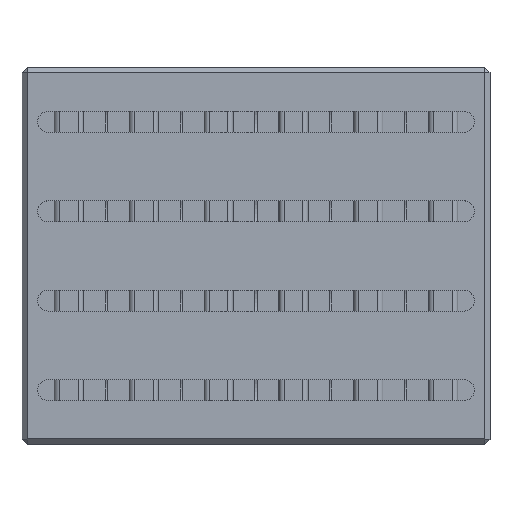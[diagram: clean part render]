
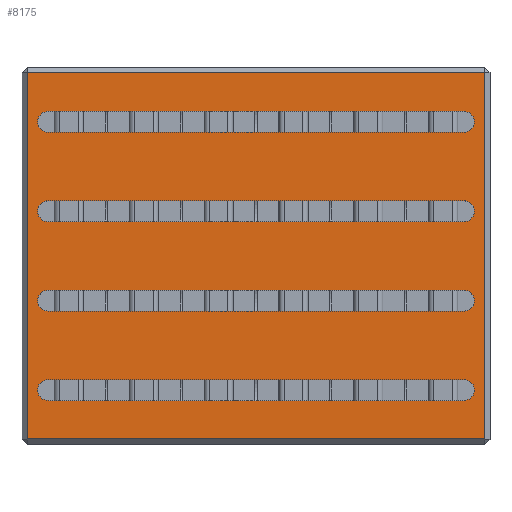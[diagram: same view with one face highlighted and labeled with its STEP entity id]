
A CAD part, top view. The second image highlights one B-rep face of the part: STEP entity #8175.
In plain terms, the highlighted planar face has unit normal (0, 0, 1).
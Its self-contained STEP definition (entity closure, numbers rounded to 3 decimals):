
#14=FACE_BOUND('',#1235,.T.);
#15=FACE_BOUND('',#1236,.T.);
#16=FACE_BOUND('',#1237,.T.);
#17=FACE_BOUND('',#1238,.T.);
#419=PLANE('',#8883);
#820=FACE_OUTER_BOUND('',#1234,.T.);
#1234=EDGE_LOOP('',(#7638,#7639,#7640,#7641));
#1235=EDGE_LOOP('',(#7642,#7643,#7644,#7645));
#1236=EDGE_LOOP('',(#7646,#7647,#7648,#7649));
#1237=EDGE_LOOP('',(#7650,#7651,#7652,#7653));
#1238=EDGE_LOOP('',(#7654,#7655,#7656,#7657));
#1550=CIRCLE('',#8884,5.);
#1551=CIRCLE('',#8885,5.);
#1552=CIRCLE('',#8886,5.);
#1553=CIRCLE('',#8887,5.);
#1554=CIRCLE('',#8888,5.);
#1555=CIRCLE('',#8889,5.);
#1556=CIRCLE('',#8890,5.);
#1557=CIRCLE('',#8891,5.);
#2396=LINE('',#13473,#3300);
#2407=LINE('',#13496,#3311);
#2409=LINE('',#13499,#3313);
#2417=LINE('',#13514,#3321);
#2430=LINE('',#13548,#3334);
#2431=LINE('',#13552,#3335);
#2432=LINE('',#13556,#3336);
#2433=LINE('',#13560,#3337);
#2434=LINE('',#13564,#3338);
#2435=LINE('',#13568,#3339);
#2436=LINE('',#13572,#3340);
#2437=LINE('',#13576,#3341);
#3300=VECTOR('',#11057,10.);
#3311=VECTOR('',#11076,10.);
#3313=VECTOR('',#11080,10.);
#3321=VECTOR('',#11094,10.);
#3334=VECTOR('',#11125,10.);
#3335=VECTOR('',#11128,10.);
#3336=VECTOR('',#11131,10.);
#3337=VECTOR('',#11134,10.);
#3338=VECTOR('',#11137,10.);
#3339=VECTOR('',#11140,10.);
#3340=VECTOR('',#11143,10.);
#3341=VECTOR('',#11146,10.);
#4106=VERTEX_POINT('',#13459);
#4109=VERTEX_POINT('',#13466);
#4114=VERTEX_POINT('',#13482);
#4119=VERTEX_POINT('',#13492);
#4134=VERTEX_POINT('',#13546);
#4135=VERTEX_POINT('',#13547);
#4136=VERTEX_POINT('',#13549);
#4137=VERTEX_POINT('',#13551);
#4138=VERTEX_POINT('',#13554);
#4139=VERTEX_POINT('',#13555);
#4140=VERTEX_POINT('',#13557);
#4141=VERTEX_POINT('',#13559);
#4142=VERTEX_POINT('',#13562);
#4143=VERTEX_POINT('',#13563);
#4144=VERTEX_POINT('',#13565);
#4145=VERTEX_POINT('',#13567);
#4146=VERTEX_POINT('',#13570);
#4147=VERTEX_POINT('',#13571);
#4148=VERTEX_POINT('',#13573);
#4149=VERTEX_POINT('',#13575);
#5276=EDGE_CURVE('',#4109,#4106,#2396,.T.);
#5287=EDGE_CURVE('',#4114,#4119,#2407,.T.);
#5289=EDGE_CURVE('',#4119,#4109,#2409,.T.);
#5297=EDGE_CURVE('',#4106,#4114,#2417,.T.);
#5314=EDGE_CURVE('',#4134,#4135,#2430,.T.);
#5315=EDGE_CURVE('',#4135,#4136,#1550,.T.);
#5316=EDGE_CURVE('',#4136,#4137,#2431,.T.);
#5317=EDGE_CURVE('',#4137,#4134,#1551,.T.);
#5318=EDGE_CURVE('',#4138,#4139,#2432,.T.);
#5319=EDGE_CURVE('',#4139,#4140,#1552,.T.);
#5320=EDGE_CURVE('',#4140,#4141,#2433,.T.);
#5321=EDGE_CURVE('',#4141,#4138,#1553,.T.);
#5322=EDGE_CURVE('',#4142,#4143,#2434,.T.);
#5323=EDGE_CURVE('',#4143,#4144,#1554,.T.);
#5324=EDGE_CURVE('',#4144,#4145,#2435,.T.);
#5325=EDGE_CURVE('',#4145,#4142,#1555,.T.);
#5326=EDGE_CURVE('',#4146,#4147,#2436,.T.);
#5327=EDGE_CURVE('',#4147,#4148,#1556,.T.);
#5328=EDGE_CURVE('',#4148,#4149,#2437,.T.);
#5329=EDGE_CURVE('',#4149,#4146,#1557,.T.);
#7638=ORIENTED_EDGE('',*,*,#5287,.F.);
#7639=ORIENTED_EDGE('',*,*,#5297,.F.);
#7640=ORIENTED_EDGE('',*,*,#5276,.F.);
#7641=ORIENTED_EDGE('',*,*,#5289,.F.);
#7642=ORIENTED_EDGE('',*,*,#5314,.T.);
#7643=ORIENTED_EDGE('',*,*,#5315,.T.);
#7644=ORIENTED_EDGE('',*,*,#5316,.T.);
#7645=ORIENTED_EDGE('',*,*,#5317,.T.);
#7646=ORIENTED_EDGE('',*,*,#5318,.T.);
#7647=ORIENTED_EDGE('',*,*,#5319,.T.);
#7648=ORIENTED_EDGE('',*,*,#5320,.T.);
#7649=ORIENTED_EDGE('',*,*,#5321,.T.);
#7650=ORIENTED_EDGE('',*,*,#5322,.T.);
#7651=ORIENTED_EDGE('',*,*,#5323,.T.);
#7652=ORIENTED_EDGE('',*,*,#5324,.T.);
#7653=ORIENTED_EDGE('',*,*,#5325,.T.);
#7654=ORIENTED_EDGE('',*,*,#5326,.T.);
#7655=ORIENTED_EDGE('',*,*,#5327,.T.);
#7656=ORIENTED_EDGE('',*,*,#5328,.T.);
#7657=ORIENTED_EDGE('',*,*,#5329,.T.);
#8175=ADVANCED_FACE('',(#820,#14,#15,#16,#17),#419,.T.);
#8883=AXIS2_PLACEMENT_3D('',#13545,#11123,#11124);
#8884=AXIS2_PLACEMENT_3D('',#13550,#11126,#11127);
#8885=AXIS2_PLACEMENT_3D('',#13553,#11129,#11130);
#8886=AXIS2_PLACEMENT_3D('',#13558,#11132,#11133);
#8887=AXIS2_PLACEMENT_3D('',#13561,#11135,#11136);
#8888=AXIS2_PLACEMENT_3D('',#13566,#11138,#11139);
#8889=AXIS2_PLACEMENT_3D('',#13569,#11141,#11142);
#8890=AXIS2_PLACEMENT_3D('',#13574,#11144,#11145);
#8891=AXIS2_PLACEMENT_3D('',#13577,#11147,#11148);
#11057=DIRECTION('',(0.,1.,0.));
#11076=DIRECTION('',(0.,-1.,0.));
#11080=DIRECTION('',(-1.,0.,0.));
#11094=DIRECTION('',(1.,0.,0.));
#11123=DIRECTION('center_axis',(0.,0.,1.));
#11124=DIRECTION('ref_axis',(1.,0.,0.));
#11125=DIRECTION('',(1.,0.,0.));
#11126=DIRECTION('center_axis',(0.,0.,-1.));
#11127=DIRECTION('ref_axis',(0.,-1.,0.));
#11128=DIRECTION('',(-1.,0.,0.));
#11129=DIRECTION('center_axis',(0.,0.,-1.));
#11130=DIRECTION('ref_axis',(0.,1.,0.));
#11131=DIRECTION('',(1.,0.,0.));
#11132=DIRECTION('center_axis',(0.,0.,-1.));
#11133=DIRECTION('ref_axis',(0.,-1.,0.));
#11134=DIRECTION('',(-1.,0.,0.));
#11135=DIRECTION('center_axis',(0.,0.,-1.));
#11136=DIRECTION('ref_axis',(0.,1.,0.));
#11137=DIRECTION('',(-1.,0.,0.));
#11138=DIRECTION('center_axis',(0.,0.,-1.));
#11139=DIRECTION('ref_axis',(0.,1.,0.));
#11140=DIRECTION('',(1.,0.,0.));
#11141=DIRECTION('center_axis',(0.,0.,-1.));
#11142=DIRECTION('ref_axis',(0.,-1.,0.));
#11143=DIRECTION('',(1.,0.,0.));
#11144=DIRECTION('center_axis',(0.,0.,-1.));
#11145=DIRECTION('ref_axis',(0.,-1.,0.));
#11146=DIRECTION('',(-1.,0.,0.));
#11147=DIRECTION('center_axis',(0.,0.,-1.));
#11148=DIRECTION('ref_axis',(0.,1.,0.));
#13459=CARTESIAN_POINT('',(-2.,174.,39.5));
#13466=CARTESIAN_POINT('',(-2.,-2.,39.5));
#13473=CARTESIAN_POINT('',(-2.,40.75,39.5));
#13482=CARTESIAN_POINT('',(218.,174.,39.5));
#13492=CARTESIAN_POINT('',(218.,-2.,39.5));
#13496=CARTESIAN_POINT('',(218.,131.25,39.5));
#13499=CARTESIAN_POINT('',(164.25,-2.,39.5));
#13514=CARTESIAN_POINT('',(51.75,174.,39.5));
#13545=CARTESIAN_POINT('Origin',(108.,86.,39.5));
#13546=CARTESIAN_POINT('',(8.,26.5,39.5));
#13547=CARTESIAN_POINT('',(208.,26.5,39.5));
#13548=CARTESIAN_POINT('',(58.,26.5,39.5));
#13549=CARTESIAN_POINT('',(208.,16.5,39.5));
#13550=CARTESIAN_POINT('Origin',(208.,21.5,39.5));
#13551=CARTESIAN_POINT('',(8.,16.5,39.5));
#13552=CARTESIAN_POINT('',(158.,16.5,39.5));
#13553=CARTESIAN_POINT('Origin',(8.,21.5,39.5));
#13554=CARTESIAN_POINT('',(8.,155.5,39.5));
#13555=CARTESIAN_POINT('',(208.,155.5,39.5));
#13556=CARTESIAN_POINT('',(58.,155.5,39.5));
#13557=CARTESIAN_POINT('',(208.,145.5,39.5));
#13558=CARTESIAN_POINT('Origin',(208.,150.5,39.5));
#13559=CARTESIAN_POINT('',(8.,145.5,39.5));
#13560=CARTESIAN_POINT('',(158.,145.5,39.5));
#13561=CARTESIAN_POINT('Origin',(8.,150.5,39.5));
#13562=CARTESIAN_POINT('',(208.,59.5,39.5));
#13563=CARTESIAN_POINT('',(8.,59.5,39.5));
#13564=CARTESIAN_POINT('',(158.,59.5,39.5));
#13565=CARTESIAN_POINT('',(8.,69.5,39.5));
#13566=CARTESIAN_POINT('Origin',(8.,64.5,39.5));
#13567=CARTESIAN_POINT('',(208.,69.5,39.5));
#13568=CARTESIAN_POINT('',(58.,69.5,39.5));
#13569=CARTESIAN_POINT('Origin',(208.,64.5,39.5));
#13570=CARTESIAN_POINT('',(8.,112.5,39.5));
#13571=CARTESIAN_POINT('',(208.,112.5,39.5));
#13572=CARTESIAN_POINT('',(58.,112.5,39.5));
#13573=CARTESIAN_POINT('',(208.,102.5,39.5));
#13574=CARTESIAN_POINT('Origin',(208.,107.5,39.5));
#13575=CARTESIAN_POINT('',(8.,102.5,39.5));
#13576=CARTESIAN_POINT('',(158.,102.5,39.5));
#13577=CARTESIAN_POINT('Origin',(8.,107.5,39.5));
